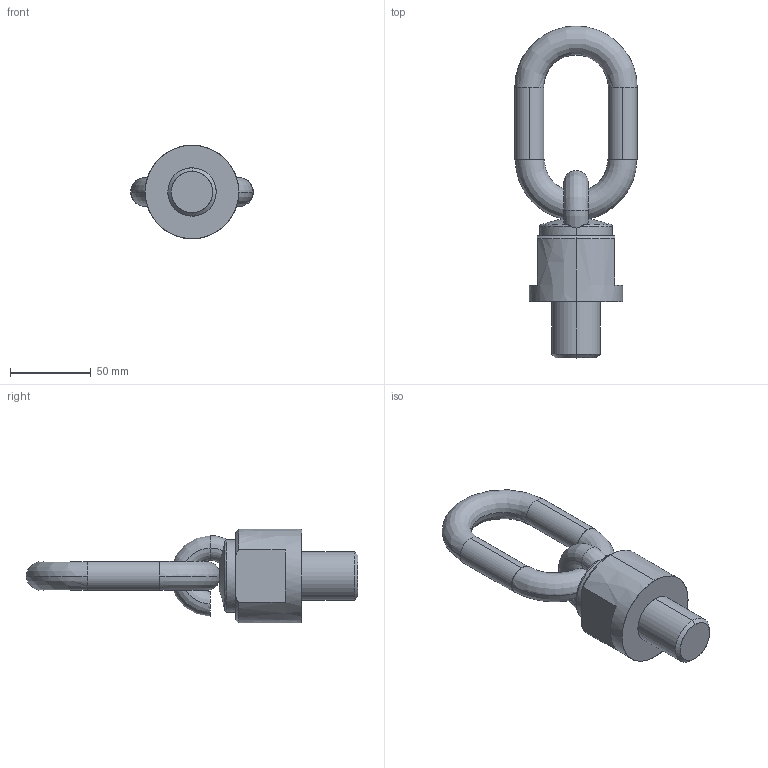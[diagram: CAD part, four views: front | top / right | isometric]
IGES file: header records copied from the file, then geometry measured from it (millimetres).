
Start section: START RECORD GO HERE.
Global section: file name: C800X0403035.igs; native system: DASSAULT SYSTEMES CATIA V5 R20 - www.3ds.com; preprocessor: CATIA Version 5 Release 20 ; author: Utente; organization: NB04-ASUS; date: 20200412.222424; units: millimetre
Bounding box: 76 x 206 x 58 mm (x, y, z)
Surface area: 33957.9 mm2 (no closed solid volume)
Topology: 0 solids, 0 shells, 42 faces, 237 edges, 237 vertices
Faces by surface type: revolution 30, extrusion 12
